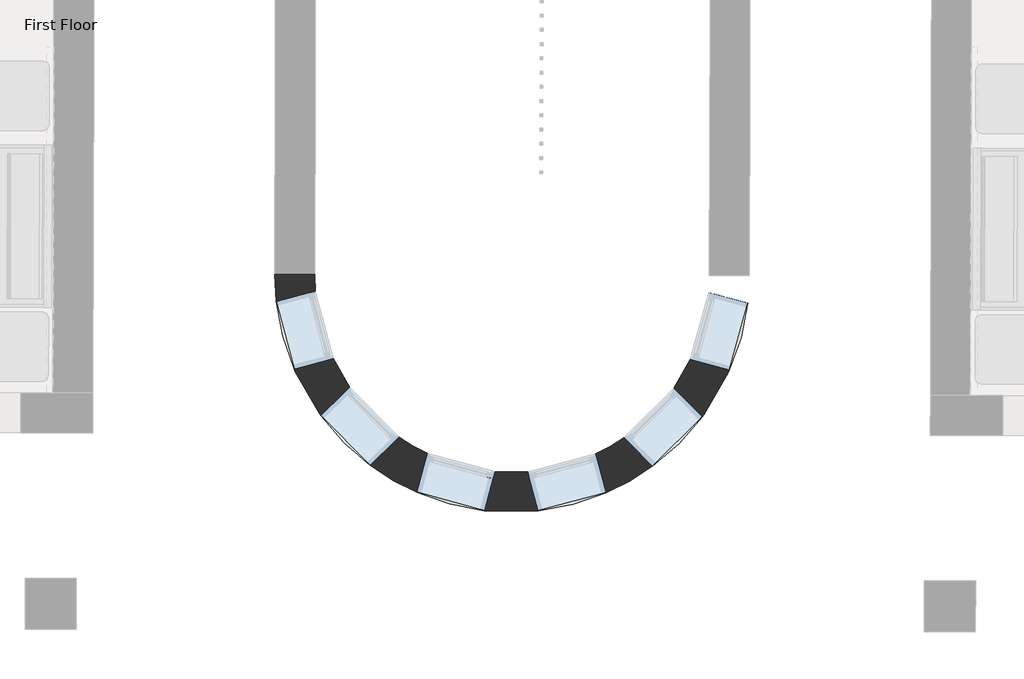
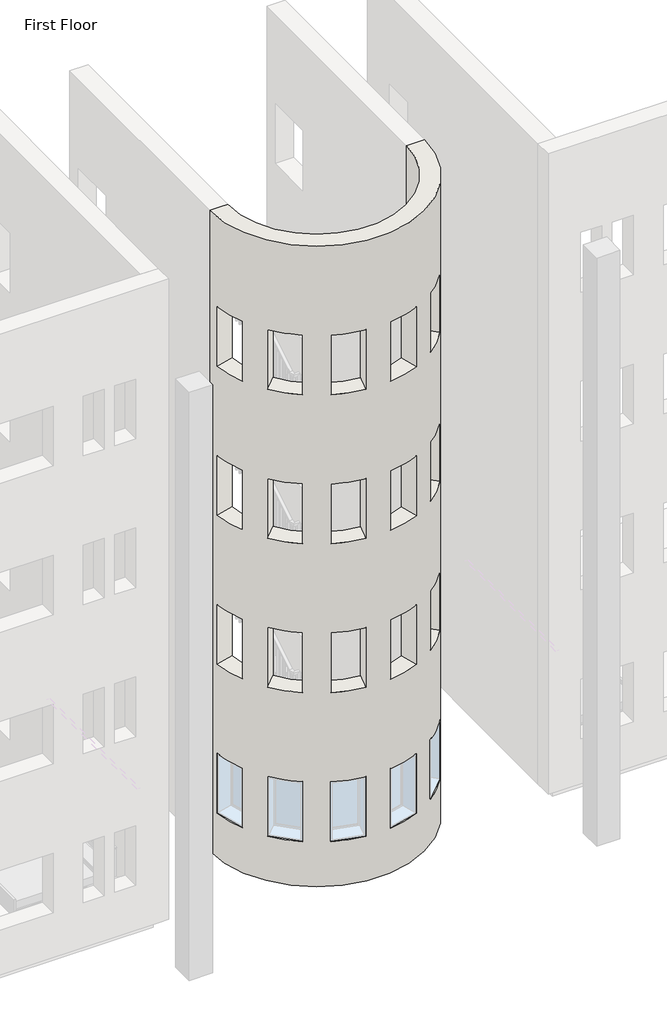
# One storey, part 2 of 22: 1 wall.
"""IFC4 building model written with IfcOpenShell, lengths in millimetres."""

from ifc_helpers import new_model, si_unit, frame, origin, place, context, project, spatial, polyline, circle_curve, element, save
from ifc_brep_helpers import plane_surface, cylinder_surface, revolved_surface, advanced_brep

model = new_model("IFC4")

# Units and contexts
model_context = context("Model", 3, world=origin())
ifc_project = project(units=[si_unit("LENGTHUNIT", "METRE", prefix="MILLI")], contexts=[model_context])

# Site, building, storey
site = spatial("IfcSite", under=ifc_project)
building = spatial("IfcBuilding", under=site)
storey = spatial("IfcBuildingStorey", under=building, Name="First Floor", Elevation=0.0)

# Wall
placement = place(None, origin())
element("IfcWall", 1, ObjectType="Exterior - Brick on Mtl. Stud", at=placement, inside=storey, context=model_context, shape_type="AdvancedBrep", body=[
    advanced_brep(
    [(-17288.0272981, -40737.1040895, 13107.0), (-20748.0128004, -40727.087895, 13107.0), (-21098.0113339, -40726.0746961, 13107.0), (-16938.0287647, -40738.1172884, 13107.0), (-20748.0128004, -40727.087895, 0.0), (-17288.0272981, -40737.1040895, 0.0), (-16938.0287647, -40738.1172884, 0.0), (-21098.0113339, -40726.0746961, 0.0), (-20586.0793709, -41462.9105815, 915.0), (-20586.0793709, -41462.9105815, 2135.0), (-20742.2526362, -40873.2412579, 2135.0), (-20742.2526362, -40873.2412579, 915.0), (-19169.1457103, -42455.482494, 915.0), (-19169.1457103, -42455.482494, 2135.0), (-19757.9009571, -42295.8978474, 2135.0), (-19757.9009571, -42295.8978474, 915.0), (-20010.5919618, -42149.0296528, 915.0), (-20010.5919618, -42149.0296528, 2135.0), (-20440.6766388, -41716.4476714, 2135.0), (-20440.6766388, -41716.4476714, 915.0), (-18033.6683701, -42154.7525818, 915.0), (-17601.0863887, -41724.6679048, 915.0), (-17601.0863887, -41724.6679048, 2135.0), (-18033.6683701, -42154.7525818, 2135.0), (-18876.8747836, -42456.3285792, 915.0), (-18287.20546, -42300.1553139, 915.0), (-18287.20546, -42300.1553139, 2135.0), (-18876.8747836, -42456.3285792, 2135.0), (-17454.2181941, -41471.9769001, 915.0), (-17294.6335475, -40883.2216533, 915.0), (-17294.6335475, -40883.2216533, 2135.0), (-17454.2181941, -41471.9769001, 2135.0), (-18033.6683701, -42154.7525818, 10059.0), (-17601.0863887, -41724.6679048, 10059.0), (-17601.0863887, -41724.6679048, 11279.0), (-18033.6683701, -42154.7525818, 11279.0), (-18876.8747836, -42456.3285792, 10059.0), (-18287.20546, -42300.1553139, 10059.0), (-18287.20546, -42300.1553139, 11279.0), (-18876.8747836, -42456.3285792, 11279.0), (-17454.2181941, -41471.9769001, 10059.0), (-17294.6335475, -40883.2216533, 10059.0), (-17294.6335475, -40883.2216533, 11279.0), (-17454.2181941, -41471.9769001, 11279.0), (-20010.5919618, -42149.0296528, 10059.0), (-20010.5919618, -42149.0296528, 11279.0), (-20440.6766388, -41716.4476714, 11279.0), (-20440.6766388, -41716.4476714, 10059.0), (-19169.1457103, -42455.482494, 10059.0), (-19169.1457103, -42455.482494, 11279.0), (-19757.9009571, -42295.8978474, 11279.0), (-19757.9009571, -42295.8978474, 10059.0), (-20586.0793709, -41462.9105815, 10059.0), (-20586.0793709, -41462.9105815, 11279.0), (-20742.2526362, -40873.2412579, 11279.0), (-20742.2526362, -40873.2412579, 10059.0), (-18033.6683701, -42154.7525818, 3963.0), (-17601.0863887, -41724.6679048, 3963.0), (-17601.0863887, -41724.6679048, 5183.0), (-18033.6683701, -42154.7525818, 5183.0), (-18876.8747836, -42456.3285792, 3963.0), (-18287.20546, -42300.1553139, 3963.0), (-18287.20546, -42300.1553139, 5183.0), (-18876.8747836, -42456.3285792, 5183.0), (-17454.2181941, -41471.9769001, 3963.0), (-17294.6335475, -40883.2216533, 3963.0), (-17294.6335475, -40883.2216533, 5183.0), (-17454.2181941, -41471.9769001, 5183.0), (-20010.5919618, -42149.0296528, 3963.0), (-20010.5919618, -42149.0296528, 5183.0), (-20440.6766388, -41716.4476714, 5183.0), (-20440.6766388, -41716.4476714, 3963.0), (-19169.1457103, -42455.482494, 3963.0), (-19169.1457103, -42455.482494, 5183.0), (-19757.9009571, -42295.8978474, 5183.0), (-19757.9009571, -42295.8978474, 3963.0), (-20586.0793709, -41462.9105815, 3963.0), (-20586.0793709, -41462.9105815, 5183.0), (-20742.2526362, -40873.2412579, 5183.0), (-20742.2526362, -40873.2412579, 3963.0), (-18033.6683701, -42154.7525818, 7011.0), (-17601.0863887, -41724.6679048, 7011.0), (-17601.0863887, -41724.6679048, 8231.0), (-18033.6683701, -42154.7525818, 8231.0), (-18876.8747836, -42456.3285792, 7011.0), (-18287.20546, -42300.1553139, 7011.0), (-18287.20546, -42300.1553139, 8231.0), (-18876.8747836, -42456.3285792, 8231.0), (-17454.2181941, -41471.9769001, 7011.0), (-17294.6335475, -40883.2216533, 7011.0), (-17294.6335475, -40883.2216533, 8231.0), (-17454.2181941, -41471.9769001, 8231.0), (-20010.5919618, -42149.0296528, 7011.0), (-20010.5919618, -42149.0296528, 8231.0), (-20440.6766388, -41716.4476714, 8231.0), (-20440.6766388, -41716.4476714, 7011.0), (-19169.1457103, -42455.482494, 7011.0), (-19169.1457103, -42455.482494, 8231.0), (-19757.9009571, -42295.8978474, 8231.0), (-19757.9009571, -42295.8978474, 7011.0), (-20586.0793709, -41462.9105815, 7011.0), (-20586.0793709, -41462.9105815, 8231.0), (-20742.2526362, -40873.2412579, 8231.0), (-20742.2526362, -40873.2412579, 7011.0), (-20928.8751952, -41553.6996748, 2135.0), (-20928.8751952, -41553.6996748, 915.0), (-21085.0484606, -40964.0303512, 915.0), (-21085.0484606, -40964.0303512, 2135.0), (-19261.9179613, -42797.7469329, 2135.0), (-19261.9179613, -42797.7469329, 915.0), (-19850.6732081, -42638.1622862, 915.0), (-19850.6732081, -42638.1622862, 2135.0), (-20262.0673073, -42399.0532261, 915.0), (-20692.1519843, -41966.4712447, 915.0), (-20692.1519843, -41966.4712447, 2135.0), (-20262.0673073, -42399.0532261, 2135.0), (-17783.6447968, -42406.2279273, 915.0), (-17783.6447968, -42406.2279273, 2135.0), (-17351.0628154, -41976.1432503, 2135.0), (-17351.0628154, -41976.1432503, 915.0), (-18786.0856903, -42799.1244036, 915.0), (-18786.0856903, -42799.1244036, 2135.0), (-18196.4163667, -42642.9511382, 2135.0), (-18196.4163667, -42642.9511382, 915.0), (-17111.9537553, -41564.749151, 915.0), (-17111.9537553, -41564.749151, 2135.0), (-16952.3691086, -40975.9939043, 2135.0), (-16952.3691086, -40975.9939043, 915.0), (-17783.6447968, -42406.2279273, 10059.0), (-17783.6447968, -42406.2279273, 11279.0), (-17351.0628154, -41976.1432503, 11279.0), (-17351.0628154, -41976.1432503, 10059.0), (-18786.0856903, -42799.1244036, 10059.0), (-18786.0856903, -42799.1244036, 11279.0), (-18196.4163667, -42642.9511382, 11279.0), (-18196.4163667, -42642.9511382, 10059.0), (-17111.9537553, -41564.749151, 10059.0), (-17111.9537553, -41564.749151, 11279.0), (-16952.3691086, -40975.9939043, 11279.0), (-16952.3691086, -40975.9939043, 10059.0), (-20262.0673073, -42399.0532261, 10059.0), (-20692.1519843, -41966.4712447, 10059.0), (-20692.1519843, -41966.4712447, 11279.0), (-20262.0673073, -42399.0532261, 11279.0), (-19261.9179613, -42797.7469329, 10059.0), (-19850.6732081, -42638.1622862, 10059.0), (-19850.6732081, -42638.1622862, 11279.0), (-19261.9179613, -42797.7469329, 11279.0), (-20928.8751952, -41553.6996748, 10059.0), (-21085.0484606, -40964.0303512, 10059.0), (-21085.0484606, -40964.0303512, 11279.0), (-20928.8751952, -41553.6996748, 11279.0), (-17783.6447968, -42406.2279273, 3963.0), (-17783.6447968, -42406.2279273, 5183.0), (-17351.0628154, -41976.1432503, 5183.0), (-17351.0628154, -41976.1432503, 3963.0), (-18786.0856903, -42799.1244036, 3963.0), (-18786.0856903, -42799.1244036, 5183.0), (-18196.4163667, -42642.9511382, 5183.0), (-18196.4163667, -42642.9511382, 3963.0), (-17111.9537553, -41564.749151, 3963.0), (-17111.9537553, -41564.749151, 5183.0), (-16952.3691086, -40975.9939043, 5183.0), (-16952.3691086, -40975.9939043, 3963.0), (-20262.0673073, -42399.0532261, 3963.0), (-20692.1519843, -41966.4712447, 3963.0), (-20692.1519843, -41966.4712447, 5183.0), (-20262.0673073, -42399.0532261, 5183.0), (-19261.9179613, -42797.7469329, 3963.0), (-19850.6732081, -42638.1622862, 3963.0), (-19850.6732081, -42638.1622862, 5183.0), (-19261.9179613, -42797.7469329, 5183.0), (-20928.8751952, -41553.6996748, 3963.0), (-21085.0484606, -40964.0303512, 3963.0), (-21085.0484606, -40964.0303512, 5183.0), (-20928.8751952, -41553.6996748, 5183.0), (-17783.6447968, -42406.2279273, 7011.0), (-17783.6447968, -42406.2279273, 8231.0), (-17351.0628154, -41976.1432503, 8231.0), (-17351.0628154, -41976.1432503, 7011.0), (-18786.0856903, -42799.1244036, 7011.0), (-18786.0856903, -42799.1244036, 8231.0), (-18196.4163667, -42642.9511382, 8231.0), (-18196.4163667, -42642.9511382, 7011.0), (-17111.9537553, -41564.749151, 7011.0), (-17111.9537553, -41564.749151, 8231.0), (-16952.3691086, -40975.9939043, 8231.0), (-16952.3691086, -40975.9939043, 7011.0), (-20262.0673073, -42399.0532261, 7011.0), (-20692.1519843, -41966.4712447, 7011.0), (-20692.1519843, -41966.4712447, 8231.0), (-20262.0673073, -42399.0532261, 8231.0), (-19261.9179613, -42797.7469329, 7011.0), (-19850.6732081, -42638.1622862, 7011.0), (-19850.6732081, -42638.1622862, 8231.0), (-19261.9179613, -42797.7469329, 8231.0), (-20928.8751952, -41553.6996748, 7011.0), (-21085.0484606, -40964.0303512, 7011.0), (-21085.0484606, -40964.0303512, 8231.0), (-20928.8751952, -41553.6996748, 8231.0)],
    [
        (0, 1, circle_curve(frame((-19018.0200493, -40732.0959922, 13107.0), z_axis=(0.0, 0.0, -1.0), x_axis=(0.9999958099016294, -0.0028948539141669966, 0.0)), 1730.0)),
        (1, 2),
        (2, 3, circle_curve(frame((-19018.0200493, -40732.0959922, 13107.0), z_axis=(0.0, 0.0, 1.0), x_axis=(0.9999958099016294, -0.0028948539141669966, 0.0)), 2080.0)),
        (3, 0),
        (4, 5, circle_curve(frame((-19018.0200493, -40732.0959922, 0.0), z_axis=(0.0, 0.0, 1.0), x_axis=(0.9999958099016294, -0.0028948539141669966, 0.0)), 1730.0)),
        (5, 6),
        (6, 7, circle_curve(frame((-19018.0200493, -40732.0959922, 0.0), z_axis=(0.0, 0.0, -1.0), x_axis=(0.9999958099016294, -0.0028948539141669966, 0.0)), 2080.0)),
        (7, 4),
        (0, 5),
        (4, 1),
        (8, 9),
        (9, 10, circle_curve(frame((-19018.0200493, -40732.0959922, 2135.0), z_axis=(0.0, 0.0, -1.0), x_axis=(0.9999958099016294, -0.0028948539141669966, 0.0)), 1730.0)),
        (10, 11),
        (11, 8, circle_curve(frame((-19018.0200493, -40732.0959922, 915.0), z_axis=(0.0, 0.0, 1.0), x_axis=(0.9999958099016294, -0.0028948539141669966, 0.0)), 1730.0)),
        (12, 13),
        (13, 14, circle_curve(frame((-19018.0200493, -40732.0959922, 2135.0), z_axis=(0.0, 0.0, -1.0), x_axis=(0.9999958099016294, -0.0028948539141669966, 0.0)), 1730.0)),
        (14, 15),
        (15, 12, circle_curve(frame((-19018.0200493, -40732.0959922, 915.0), z_axis=(0.0, 0.0, 1.0), x_axis=(0.9999958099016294, -0.0028948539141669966, 0.0)), 1730.0)),
        (16, 17),
        (17, 18, circle_curve(frame((-19018.0200493, -40732.0959922, 2135.0), z_axis=(0.0, 0.0, -1.0), x_axis=(0.9999958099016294, -0.0028948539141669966, 0.0)), 1730.0)),
        (18, 19),
        (19, 16, circle_curve(frame((-19018.0200493, -40732.0959922, 915.0), z_axis=(0.0, 0.0, 1.0), x_axis=(0.9999958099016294, -0.0028948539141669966, 0.0)), 1730.0)),
        (20, 21, circle_curve(frame((-19018.0200493, -40732.0959922, 915.0), z_axis=(0.0, 0.0, 1.0), x_axis=(0.9999958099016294, -0.0028948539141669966, 0.0)), 1730.0)),
        (21, 22),
        (22, 23, circle_curve(frame((-19018.0200493, -40732.0959922, 2135.0), z_axis=(0.0, 0.0, -1.0), x_axis=(0.9999958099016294, -0.0028948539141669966, 0.0)), 1730.0)),
        (23, 20),
        (24, 25, circle_curve(frame((-19018.0200493, -40732.0959922, 915.0), z_axis=(0.0, 0.0, 1.0), x_axis=(0.9999958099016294, -0.0028948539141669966, 0.0)), 1730.0)),
        (25, 26),
        (26, 27, circle_curve(frame((-19018.0200493, -40732.0959922, 2135.0), z_axis=(0.0, 0.0, -1.0), x_axis=(0.9999958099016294, -0.0028948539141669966, 0.0)), 1730.0)),
        (27, 24),
        (28, 29, circle_curve(frame((-19018.0200493, -40732.0959922, 915.0), z_axis=(0.0, 0.0, 1.0), x_axis=(0.9999958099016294, -0.0028948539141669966, 0.0)), 1730.0)),
        (29, 30),
        (30, 31, circle_curve(frame((-19018.0200493, -40732.0959922, 2135.0), z_axis=(0.0, 0.0, -1.0), x_axis=(0.9999958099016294, -0.0028948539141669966, 0.0)), 1730.0)),
        (31, 28),
        (32, 33, circle_curve(frame((-19018.0200493, -40732.0959922, 10059.0), z_axis=(0.0, 0.0, 1.0), x_axis=(0.9999958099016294, -0.0028948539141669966, 0.0)), 1730.0)),
        (33, 34),
        (34, 35, circle_curve(frame((-19018.0200493, -40732.0959922, 11279.0), z_axis=(0.0, 0.0, -1.0), x_axis=(0.9999958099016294, -0.0028948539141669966, 0.0)), 1730.0)),
        (35, 32),
        (36, 37, circle_curve(frame((-19018.0200493, -40732.0959922, 10059.0), z_axis=(0.0, 0.0, 1.0), x_axis=(0.9999958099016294, -0.0028948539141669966, 0.0)), 1730.0)),
        (37, 38),
        (38, 39, circle_curve(frame((-19018.0200493, -40732.0959922, 11279.0), z_axis=(0.0, 0.0, -1.0), x_axis=(0.9999958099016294, -0.0028948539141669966, 0.0)), 1730.0)),
        (39, 36),
        (40, 41, circle_curve(frame((-19018.0200493, -40732.0959922, 10059.0), z_axis=(0.0, 0.0, 1.0), x_axis=(0.9999958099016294, -0.0028948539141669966, 0.0)), 1730.0)),
        (41, 42),
        (42, 43, circle_curve(frame((-19018.0200493, -40732.0959922, 11279.0), z_axis=(0.0, 0.0, -1.0), x_axis=(0.9999958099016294, -0.0028948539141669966, 0.0)), 1730.0)),
        (43, 40),
        (44, 45),
        (45, 46, circle_curve(frame((-19018.0200493, -40732.0959922, 11279.0), z_axis=(0.0, 0.0, -1.0), x_axis=(0.9999958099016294, -0.0028948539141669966, 0.0)), 1730.0)),
        (46, 47),
        (47, 44, circle_curve(frame((-19018.0200493, -40732.0959922, 10059.0), z_axis=(0.0, 0.0, 1.0), x_axis=(0.9999958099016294, -0.0028948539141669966, 0.0)), 1730.0)),
        (48, 49),
        (49, 50, circle_curve(frame((-19018.0200493, -40732.0959922, 11279.0), z_axis=(0.0, 0.0, -1.0), x_axis=(0.9999958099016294, -0.0028948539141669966, 0.0)), 1730.0)),
        (50, 51),
        (51, 48, circle_curve(frame((-19018.0200493, -40732.0959922, 10059.0), z_axis=(0.0, 0.0, 1.0), x_axis=(0.9999958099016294, -0.0028948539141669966, 0.0)), 1730.0)),
        (52, 53),
        (53, 54, circle_curve(frame((-19018.0200493, -40732.0959922, 11279.0), z_axis=(0.0, 0.0, -1.0), x_axis=(0.9999958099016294, -0.0028948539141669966, 0.0)), 1730.0)),
        (54, 55),
        (55, 52, circle_curve(frame((-19018.0200493, -40732.0959922, 10059.0), z_axis=(0.0, 0.0, 1.0), x_axis=(0.9999958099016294, -0.0028948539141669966, 0.0)), 1730.0)),
        (56, 57, circle_curve(frame((-19018.0200493, -40732.0959922, 3963.0), z_axis=(0.0, 0.0, 1.0), x_axis=(0.9999958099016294, -0.0028948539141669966, 0.0)), 1730.0)),
        (57, 58),
        (58, 59, circle_curve(frame((-19018.0200493, -40732.0959922, 5183.0), z_axis=(0.0, 0.0, -1.0), x_axis=(0.9999958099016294, -0.0028948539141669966, 0.0)), 1730.0)),
        (59, 56),
        (60, 61, circle_curve(frame((-19018.0200493, -40732.0959922, 3963.0), z_axis=(0.0, 0.0, 1.0), x_axis=(0.9999958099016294, -0.0028948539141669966, 0.0)), 1730.0)),
        (61, 62),
        (62, 63, circle_curve(frame((-19018.0200493, -40732.0959922, 5183.0), z_axis=(0.0, 0.0, -1.0), x_axis=(0.9999958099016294, -0.0028948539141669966, 0.0)), 1730.0)),
        (63, 60),
        (64, 65, circle_curve(frame((-19018.0200493, -40732.0959922, 3963.0), z_axis=(0.0, 0.0, 1.0), x_axis=(0.9999958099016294, -0.0028948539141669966, 0.0)), 1730.0)),
        (65, 66),
        (66, 67, circle_curve(frame((-19018.0200493, -40732.0959922, 5183.0), z_axis=(0.0, 0.0, -1.0), x_axis=(0.9999958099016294, -0.0028948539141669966, 0.0)), 1730.0)),
        (67, 64),
        (68, 69),
        (69, 70, circle_curve(frame((-19018.0200493, -40732.0959922, 5183.0), z_axis=(0.0, 0.0, -1.0), x_axis=(0.9999958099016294, -0.0028948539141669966, 0.0)), 1730.0)),
        (70, 71),
        (71, 68, circle_curve(frame((-19018.0200493, -40732.0959922, 3963.0), z_axis=(0.0, 0.0, 1.0), x_axis=(0.9999958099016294, -0.0028948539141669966, 0.0)), 1730.0)),
        (72, 73),
        (73, 74, circle_curve(frame((-19018.0200493, -40732.0959922, 5183.0), z_axis=(0.0, 0.0, -1.0), x_axis=(0.9999958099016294, -0.0028948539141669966, 0.0)), 1730.0)),
        (74, 75),
        (75, 72, circle_curve(frame((-19018.0200493, -40732.0959922, 3963.0), z_axis=(0.0, 0.0, 1.0), x_axis=(0.9999958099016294, -0.0028948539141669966, 0.0)), 1730.0)),
        (76, 77),
        (77, 78, circle_curve(frame((-19018.0200493, -40732.0959922, 5183.0), z_axis=(0.0, 0.0, -1.0), x_axis=(0.9999958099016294, -0.0028948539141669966, 0.0)), 1730.0)),
        (78, 79),
        (79, 76, circle_curve(frame((-19018.0200493, -40732.0959922, 3963.0), z_axis=(0.0, 0.0, 1.0), x_axis=(0.9999958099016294, -0.0028948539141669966, 0.0)), 1730.0)),
        (80, 81, circle_curve(frame((-19018.0200493, -40732.0959922, 7011.0), z_axis=(0.0, 0.0, 1.0), x_axis=(0.9999958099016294, -0.0028948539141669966, 0.0)), 1730.0)),
        (81, 82),
        (82, 83, circle_curve(frame((-19018.0200493, -40732.0959922, 8231.0), z_axis=(0.0, 0.0, -1.0), x_axis=(0.9999958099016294, -0.0028948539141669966, 0.0)), 1730.0)),
        (83, 80),
        (84, 85, circle_curve(frame((-19018.0200493, -40732.0959922, 7011.0), z_axis=(0.0, 0.0, 1.0), x_axis=(0.9999958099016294, -0.0028948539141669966, 0.0)), 1730.0)),
        (85, 86),
        (86, 87, circle_curve(frame((-19018.0200493, -40732.0959922, 8231.0), z_axis=(0.0, 0.0, -1.0), x_axis=(0.9999958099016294, -0.0028948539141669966, 0.0)), 1730.0)),
        (87, 84),
        (88, 89, circle_curve(frame((-19018.0200493, -40732.0959922, 7011.0), z_axis=(0.0, 0.0, 1.0), x_axis=(0.9999958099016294, -0.0028948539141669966, 0.0)), 1730.0)),
        (89, 90),
        (90, 91, circle_curve(frame((-19018.0200493, -40732.0959922, 8231.0), z_axis=(0.0, 0.0, -1.0), x_axis=(0.9999958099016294, -0.0028948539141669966, 0.0)), 1730.0)),
        (91, 88),
        (92, 93),
        (93, 94, circle_curve(frame((-19018.0200493, -40732.0959922, 8231.0), z_axis=(0.0, 0.0, -1.0), x_axis=(0.9999958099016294, -0.0028948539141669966, 0.0)), 1730.0)),
        (94, 95),
        (95, 92, circle_curve(frame((-19018.0200493, -40732.0959922, 7011.0), z_axis=(0.0, 0.0, 1.0), x_axis=(0.9999958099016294, -0.0028948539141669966, 0.0)), 1730.0)),
        (96, 97),
        (97, 98, circle_curve(frame((-19018.0200493, -40732.0959922, 8231.0), z_axis=(0.0, 0.0, -1.0), x_axis=(0.9999958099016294, -0.0028948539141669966, 0.0)), 1730.0)),
        (98, 99),
        (99, 96, circle_curve(frame((-19018.0200493, -40732.0959922, 7011.0), z_axis=(0.0, 0.0, 1.0), x_axis=(0.9999958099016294, -0.0028948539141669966, 0.0)), 1730.0)),
        (100, 101),
        (101, 102, circle_curve(frame((-19018.0200493, -40732.0959922, 8231.0), z_axis=(0.0, 0.0, -1.0), x_axis=(0.9999958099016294, -0.0028948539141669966, 0.0)), 1730.0)),
        (102, 103),
        (103, 100, circle_curve(frame((-19018.0200493, -40732.0959922, 7011.0), z_axis=(0.0, 0.0, 1.0), x_axis=(0.9999958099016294, -0.0028948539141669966, 0.0)), 1730.0)),
        (7, 2),
        (6, 3),
        (104, 105),
        (105, 106, circle_curve(frame((-19018.0200493, -40732.0959922, 915.0), z_axis=(0.0, 0.0, -1.0), x_axis=(0.9999958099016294, -0.0028948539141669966, 0.0)), 2080.0)),
        (106, 107),
        (107, 104, circle_curve(frame((-19018.0200493, -40732.0959922, 2135.0), z_axis=(0.0, 0.0, 1.0), x_axis=(0.9999958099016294, -0.0028948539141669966, 0.0)), 2080.0)),
        (108, 109),
        (109, 110, circle_curve(frame((-19018.0200493, -40732.0959922, 915.0), z_axis=(0.0, 0.0, -1.0), x_axis=(0.9999958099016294, -0.0028948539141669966, 0.0)), 2080.0)),
        (110, 111),
        (111, 108, circle_curve(frame((-19018.0200493, -40732.0959922, 2135.0), z_axis=(0.0, 0.0, 1.0), x_axis=(0.9999958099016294, -0.0028948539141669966, 0.0)), 2080.0)),
        (112, 113, circle_curve(frame((-19018.0200493, -40732.0959922, 915.0), z_axis=(0.0, 0.0, -1.0), x_axis=(0.9999958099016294, -0.0028948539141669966, 0.0)), 2080.0)),
        (113, 114),
        (114, 115, circle_curve(frame((-19018.0200493, -40732.0959922, 2135.0), z_axis=(0.0, 0.0, 1.0), x_axis=(0.9999958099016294, -0.0028948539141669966, 0.0)), 2080.0)),
        (115, 112),
        (116, 117),
        (117, 118, circle_curve(frame((-19018.0200493, -40732.0959922, 2135.0), z_axis=(0.0, 0.0, 1.0), x_axis=(0.9999958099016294, -0.0028948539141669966, 0.0)), 2080.0)),
        (118, 119),
        (119, 116, circle_curve(frame((-19018.0200493, -40732.0959922, 915.0), z_axis=(0.0, 0.0, -1.0), x_axis=(0.9999958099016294, -0.0028948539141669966, 0.0)), 2080.0)),
        (120, 121),
        (121, 122, circle_curve(frame((-19018.0200493, -40732.0959922, 2135.0), z_axis=(0.0, 0.0, 1.0), x_axis=(0.9999958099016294, -0.0028948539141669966, 0.0)), 2080.0)),
        (122, 123),
        (123, 120, circle_curve(frame((-19018.0200493, -40732.0959922, 915.0), z_axis=(0.0, 0.0, -1.0), x_axis=(0.9999958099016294, -0.0028948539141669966, 0.0)), 2080.0)),
        (124, 125),
        (125, 126, circle_curve(frame((-19018.0200493, -40732.0959922, 2135.0), z_axis=(0.0, 0.0, 1.0), x_axis=(0.9999958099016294, -0.0028948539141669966, 0.0)), 2080.0)),
        (126, 127),
        (127, 124, circle_curve(frame((-19018.0200493, -40732.0959922, 915.0), z_axis=(0.0, 0.0, -1.0), x_axis=(0.9999958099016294, -0.0028948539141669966, 0.0)), 2080.0)),
        (128, 129),
        (129, 130, circle_curve(frame((-19018.0200493, -40732.0959922, 11279.0), z_axis=(0.0, 0.0, 1.0), x_axis=(0.9999958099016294, -0.0028948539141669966, 0.0)), 2080.0)),
        (130, 131),
        (131, 128, circle_curve(frame((-19018.0200493, -40732.0959922, 10059.0), z_axis=(0.0, 0.0, -1.0), x_axis=(0.9999958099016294, -0.0028948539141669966, 0.0)), 2080.0)),
        (132, 133),
        (133, 134, circle_curve(frame((-19018.0200493, -40732.0959922, 11279.0), z_axis=(0.0, 0.0, 1.0), x_axis=(0.9999958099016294, -0.0028948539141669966, 0.0)), 2080.0)),
        (134, 135),
        (135, 132, circle_curve(frame((-19018.0200493, -40732.0959922, 10059.0), z_axis=(0.0, 0.0, -1.0), x_axis=(0.9999958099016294, -0.0028948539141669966, 0.0)), 2080.0)),
        (136, 137),
        (137, 138, circle_curve(frame((-19018.0200493, -40732.0959922, 11279.0), z_axis=(0.0, 0.0, 1.0), x_axis=(0.9999958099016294, -0.0028948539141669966, 0.0)), 2080.0)),
        (138, 139),
        (139, 136, circle_curve(frame((-19018.0200493, -40732.0959922, 10059.0), z_axis=(0.0, 0.0, -1.0), x_axis=(0.9999958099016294, -0.0028948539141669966, 0.0)), 2080.0)),
        (140, 141, circle_curve(frame((-19018.0200493, -40732.0959922, 10059.0), z_axis=(0.0, 0.0, -1.0), x_axis=(0.9999958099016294, -0.0028948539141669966, 0.0)), 2080.0)),
        (141, 142),
        (142, 143, circle_curve(frame((-19018.0200493, -40732.0959922, 11279.0), z_axis=(0.0, 0.0, 1.0), x_axis=(0.9999958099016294, -0.0028948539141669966, 0.0)), 2080.0)),
        (143, 140),
        (144, 145, circle_curve(frame((-19018.0200493, -40732.0959922, 10059.0), z_axis=(0.0, 0.0, -1.0), x_axis=(0.9999958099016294, -0.0028948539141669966, 0.0)), 2080.0)),
        (145, 146),
        (146, 147, circle_curve(frame((-19018.0200493, -40732.0959922, 11279.0), z_axis=(0.0, 0.0, 1.0), x_axis=(0.9999958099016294, -0.0028948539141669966, 0.0)), 2080.0)),
        (147, 144),
        (148, 149, circle_curve(frame((-19018.0200493, -40732.0959922, 10059.0), z_axis=(0.0, 0.0, -1.0), x_axis=(0.9999958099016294, -0.0028948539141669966, 0.0)), 2080.0)),
        (149, 150),
        (150, 151, circle_curve(frame((-19018.0200493, -40732.0959922, 11279.0), z_axis=(0.0, 0.0, 1.0), x_axis=(0.9999958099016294, -0.0028948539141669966, 0.0)), 2080.0)),
        (151, 148),
        (152, 153),
        (153, 154, circle_curve(frame((-19018.0200493, -40732.0959922, 5183.0), z_axis=(0.0, 0.0, 1.0), x_axis=(0.9999958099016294, -0.0028948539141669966, 0.0)), 2080.0)),
        (154, 155),
        (155, 152, circle_curve(frame((-19018.0200493, -40732.0959922, 3963.0), z_axis=(0.0, 0.0, -1.0), x_axis=(0.9999958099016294, -0.0028948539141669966, 0.0)), 2080.0)),
        (156, 157),
        (157, 158, circle_curve(frame((-19018.0200493, -40732.0959922, 5183.0), z_axis=(0.0, 0.0, 1.0), x_axis=(0.9999958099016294, -0.0028948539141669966, 0.0)), 2080.0)),
        (158, 159),
        (159, 156, circle_curve(frame((-19018.0200493, -40732.0959922, 3963.0), z_axis=(0.0, 0.0, -1.0), x_axis=(0.9999958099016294, -0.0028948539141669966, 0.0)), 2080.0)),
        (160, 161),
        (161, 162, circle_curve(frame((-19018.0200493, -40732.0959922, 5183.0), z_axis=(0.0, 0.0, 1.0), x_axis=(0.9999958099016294, -0.0028948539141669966, 0.0)), 2080.0)),
        (162, 163),
        (163, 160, circle_curve(frame((-19018.0200493, -40732.0959922, 3963.0), z_axis=(0.0, 0.0, -1.0), x_axis=(0.9999958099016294, -0.0028948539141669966, 0.0)), 2080.0)),
        (164, 165, circle_curve(frame((-19018.0200493, -40732.0959922, 3963.0), z_axis=(0.0, 0.0, -1.0), x_axis=(0.9999958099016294, -0.0028948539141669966, 0.0)), 2080.0)),
        (165, 166),
        (166, 167, circle_curve(frame((-19018.0200493, -40732.0959922, 5183.0), z_axis=(0.0, 0.0, 1.0), x_axis=(0.9999958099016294, -0.0028948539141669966, 0.0)), 2080.0)),
        (167, 164),
        (168, 169, circle_curve(frame((-19018.0200493, -40732.0959922, 3963.0), z_axis=(0.0, 0.0, -1.0), x_axis=(0.9999958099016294, -0.0028948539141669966, 0.0)), 2080.0)),
        (169, 170),
        (170, 171, circle_curve(frame((-19018.0200493, -40732.0959922, 5183.0), z_axis=(0.0, 0.0, 1.0), x_axis=(0.9999958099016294, -0.0028948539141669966, 0.0)), 2080.0)),
        (171, 168),
        (172, 173, circle_curve(frame((-19018.0200493, -40732.0959922, 3963.0), z_axis=(0.0, 0.0, -1.0), x_axis=(0.9999958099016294, -0.0028948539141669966, 0.0)), 2080.0)),
        (173, 174),
        (174, 175, circle_curve(frame((-19018.0200493, -40732.0959922, 5183.0), z_axis=(0.0, 0.0, 1.0), x_axis=(0.9999958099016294, -0.0028948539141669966, 0.0)), 2080.0)),
        (175, 172),
        (176, 177),
        (177, 178, circle_curve(frame((-19018.0200493, -40732.0959922, 8231.0), z_axis=(0.0, 0.0, 1.0), x_axis=(0.9999958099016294, -0.0028948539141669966, 0.0)), 2080.0)),
        (178, 179),
        (179, 176, circle_curve(frame((-19018.0200493, -40732.0959922, 7011.0), z_axis=(0.0, 0.0, -1.0), x_axis=(0.9999958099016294, -0.0028948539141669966, 0.0)), 2080.0)),
        (180, 181),
        (181, 182, circle_curve(frame((-19018.0200493, -40732.0959922, 8231.0), z_axis=(0.0, 0.0, 1.0), x_axis=(0.9999958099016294, -0.0028948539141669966, 0.0)), 2080.0)),
        (182, 183),
        (183, 180, circle_curve(frame((-19018.0200493, -40732.0959922, 7011.0), z_axis=(0.0, 0.0, -1.0), x_axis=(0.9999958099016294, -0.0028948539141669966, 0.0)), 2080.0)),
        (184, 185),
        (185, 186, circle_curve(frame((-19018.0200493, -40732.0959922, 8231.0), z_axis=(0.0, 0.0, 1.0), x_axis=(0.9999958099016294, -0.0028948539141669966, 0.0)), 2080.0)),
        (186, 187),
        (187, 184, circle_curve(frame((-19018.0200493, -40732.0959922, 7011.0), z_axis=(0.0, 0.0, -1.0), x_axis=(0.9999958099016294, -0.0028948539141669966, 0.0)), 2080.0)),
        (188, 189, circle_curve(frame((-19018.0200493, -40732.0959922, 7011.0), z_axis=(0.0, 0.0, -1.0), x_axis=(0.9999958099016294, -0.0028948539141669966, 0.0)), 2080.0)),
        (189, 190),
        (190, 191, circle_curve(frame((-19018.0200493, -40732.0959922, 8231.0), z_axis=(0.0, 0.0, 1.0), x_axis=(0.9999958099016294, -0.0028948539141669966, 0.0)), 2080.0)),
        (191, 188),
        (192, 193, circle_curve(frame((-19018.0200493, -40732.0959922, 7011.0), z_axis=(0.0, 0.0, -1.0), x_axis=(0.9999958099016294, -0.0028948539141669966, 0.0)), 2080.0)),
        (193, 194),
        (194, 195, circle_curve(frame((-19018.0200493, -40732.0959922, 8231.0), z_axis=(0.0, 0.0, 1.0), x_axis=(0.9999958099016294, -0.0028948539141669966, 0.0)), 2080.0)),
        (195, 192),
        (196, 197, circle_curve(frame((-19018.0200493, -40732.0959922, 7011.0), z_axis=(0.0, 0.0, -1.0), x_axis=(0.9999958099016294, -0.0028948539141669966, 0.0)), 2080.0)),
        (197, 198),
        (198, 199, circle_curve(frame((-19018.0200493, -40732.0959922, 8231.0), z_axis=(0.0, 0.0, 1.0), x_axis=(0.9999958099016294, -0.0028948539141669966, 0.0)), 2080.0)),
        (199, 196),
        (8, 105),
        (104, 9),
        (107, 10),
        (106, 11),
        (12, 109),
        (108, 13),
        (111, 14),
        (110, 15),
        (16, 112),
        (115, 17),
        (114, 18),
        (113, 19),
        (116, 20),
        (23, 117),
        (22, 118),
        (21, 119),
        (120, 24),
        (27, 121),
        (26, 122),
        (25, 123),
        (124, 28),
        (31, 125),
        (30, 126),
        (29, 127),
        (128, 32),
        (35, 129),
        (34, 130),
        (33, 131),
        (132, 36),
        (39, 133),
        (38, 134),
        (37, 135),
        (136, 40),
        (43, 137),
        (42, 138),
        (41, 139),
        (44, 140),
        (143, 45),
        (142, 46),
        (141, 47),
        (48, 144),
        (147, 49),
        (146, 50),
        (145, 51),
        (52, 148),
        (151, 53),
        (150, 54),
        (149, 55),
        (152, 56),
        (59, 153),
        (58, 154),
        (57, 155),
        (156, 60),
        (63, 157),
        (62, 158),
        (61, 159),
        (160, 64),
        (67, 161),
        (66, 162),
        (65, 163),
        (68, 164),
        (167, 69),
        (166, 70),
        (165, 71),
        (72, 168),
        (171, 73),
        (170, 74),
        (169, 75),
        (76, 172),
        (175, 77),
        (174, 78),
        (173, 79),
        (176, 80),
        (83, 177),
        (82, 178),
        (81, 179),
        (180, 84),
        (87, 181),
        (86, 182),
        (85, 183),
        (184, 88),
        (91, 185),
        (90, 186),
        (89, 187),
        (92, 188),
        (191, 93),
        (190, 94),
        (189, 95),
        (96, 192),
        (195, 97),
        (194, 98),
        (193, 99),
        (100, 196),
        (199, 101),
        (198, 102),
        (197, 103),
    ],
    [
        plane_surface(frame((-17288.0272981, -40737.1040895, 13107.0), z_axis=(0.0, 0.0, 1.0000000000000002), x_axis=(-0.0028948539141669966, -0.9999958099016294, 0.0))),
        plane_surface(frame((-17288.0272981, -40737.1040895, 0.0), z_axis=(0.0, 0.0, -1.0000000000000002), x_axis=(0.0028948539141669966, 0.9999958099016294, 0.0))),
        revolved_surface(polyline([(-17288.027298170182, -40737.104089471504, 0.0), (-17288.027298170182, -40737.104089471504, 13107.0)]), (-19018.0200493, -40732.0959922, 0.0), (0.0, 0.0, -1.0)),
        plane_surface(frame((-20748.0128004, -40727.087895, 13107.0), z_axis=(0.0028948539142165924, 0.9999958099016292, 0.0), x_axis=(0.0, 0.0, -1.0))),
        cylinder_surface(frame((-19018.0200493, -40732.0959922, 0.0), z_axis=(0.0, 0.0, 1.0), x_axis=(0.9999958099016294, -0.0028948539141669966, 0.0)), 2080.0),
        plane_surface(frame((-16938.0287647, -40738.1172884, 13107.0), z_axis=(0.0028948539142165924, 0.9999958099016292, 0.0), x_axis=(0.0, 0.0, -1.0))),
        plane_surface(frame((-20586.0793709, -41462.9105815, 915.0), z_axis=(-0.25602174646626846, 0.9666710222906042, 0.0), x_axis=(-0.9666710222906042, -0.25602174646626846, 0.0))),
        plane_surface(frame((-20586.0793709, -41462.9105815, 2135.0), z_axis=(0.0, 0.0, -1.0), x_axis=(-0.9666710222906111, -0.2560217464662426, 0.0))),
        plane_surface(frame((-20742.2526362, -40873.2412579, 2135.0), z_axis=(0.25602174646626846, -0.9666710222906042, 0.0), x_axis=(-0.9666710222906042, -0.25602174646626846, 0.0))),
        plane_surface(frame((-20742.2526362, -40873.2412579, 915.0), z_axis=(0.0, 0.0, 1.0000000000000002), x_axis=(-0.9666710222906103, -0.25602174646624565, 0.0))),
        plane_surface(frame((-19659.4106739, -44264.2158258, 915.0), z_axis=(-0.9651725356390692, 0.26161417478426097, 0.0), x_axis=(0.26161417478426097, 0.9651725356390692, 0.0))),
        plane_surface(frame((-19659.4106739, -44264.2158258, 2135.0), z_axis=(0.0, 0.0, -1.0000000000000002), x_axis=(0.26161417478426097, 0.9651725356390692, 0.0))),
        plane_surface(frame((-20248.1659206, -44104.6311792, 2135.0), z_axis=(0.9651725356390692, -0.26161417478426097, 0.0), x_axis=(0.26161417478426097, 0.9651725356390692, 0.0))),
        plane_surface(frame((-20248.1659206, -44104.6311792, 915.0), z_axis=(0.0, 0.0, 1.0000000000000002), x_axis=(0.26161417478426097, 0.9651725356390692, 0.0))),
        plane_surface(frame((-20010.5919618, -42149.0296528, 915.0), z_axis=(-0.7050568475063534, 0.7091507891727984, 0.0), x_axis=(-0.7091507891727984, -0.7050568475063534, 0.0))),
        plane_surface(frame((-20010.5919618, -42149.0296528, 2135.0), z_axis=(0.0, 0.0, -1.0), x_axis=(-0.709150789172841, -0.7050568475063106, 0.0))),
        plane_surface(frame((-20440.6766388, -41716.4476714, 2135.0), z_axis=(0.7050568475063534, -0.7091507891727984, 0.0), x_axis=(-0.7091507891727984, -0.7050568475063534, 0.0))),
        plane_surface(frame((-20440.6766388, -41716.4476714, 915.0), z_axis=(0.0, 0.0, 1.0000000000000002), x_axis=(-0.709150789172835, -0.7050568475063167, 0.0))),
        plane_surface(frame((-17783.6447968, -42406.2279273, 915.0), z_axis=(0.7091507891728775, 0.7050568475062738, 0.0), x_axis=(-0.7050568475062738, 0.7091507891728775, 0.0))),
        plane_surface(frame((-17783.6447968, -42406.2279273, 2135.0), z_axis=(0.0, 0.0, -1.0), x_axis=(-0.7050568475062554, 0.7091507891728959, 0.0))),
        plane_surface(frame((-17351.0628154, -41976.1432503, 2135.0), z_axis=(-0.7091507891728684, -0.705056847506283, 0.0), x_axis=(-0.705056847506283, 0.7091507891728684, 0.0))),
        plane_surface(frame((-17351.0628154, -41976.1432503, 915.0), z_axis=(0.0, 0.0, 1.0000000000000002), x_axis=(-0.7050568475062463, 0.709150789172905, 0.0))),
        plane_surface(frame((-18786.0856903, -42799.1244036, 915.0), z_axis=(0.9666710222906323, 0.2560217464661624, 0.0), x_axis=(-0.2560217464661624, 0.9666710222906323, 0.0))),
        plane_surface(frame((-18786.0856903, -42799.1244036, 2135.0), z_axis=(0.0, 0.0, -1.0), x_axis=(-0.25602174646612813, 0.9666710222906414, 0.0))),
        plane_surface(frame((-18196.4163667, -42642.9511382, 2135.0), z_axis=(-0.9666710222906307, -0.25602174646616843, 0.0), x_axis=(-0.25602174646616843, 0.9666710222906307, 0.0))),
        plane_surface(frame((-18196.4163667, -42642.9511382, 915.0), z_axis=(0.0, 0.0, 1.0000000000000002), x_axis=(-0.25602174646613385, 0.96667102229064, 0.0))),
        plane_surface(frame((-17111.9537553, -41564.749151, 915.0), z_axis=(0.2616141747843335, 0.9651725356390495, 0.0), x_axis=(-0.9651725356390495, 0.2616141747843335, 0.0))),
        plane_surface(frame((-17111.9537553, -41564.749151, 2135.0), z_axis=(0.0, 0.0, -1.0), x_axis=(-0.9651725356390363, 0.26161417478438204, 0.0))),
        plane_surface(frame((-16952.3691086, -40975.9939043, 2135.0), z_axis=(-0.2616141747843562, -0.9651725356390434, 0.0), x_axis=(-0.9651725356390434, 0.2616141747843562, 0.0))),
        plane_surface(frame((-16952.3691086, -40975.9939043, 915.0), z_axis=(0.0, 0.0, 1.0), x_axis=(-0.9651725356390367, 0.26161417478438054, 0.0))),
        plane_surface(frame((-17783.6447968, -42406.2279273, 10059.0), z_axis=(0.7091507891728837, 0.7050568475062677, 0.0), x_axis=(-0.7050568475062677, 0.7091507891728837, 0.0))),
        plane_surface(frame((-17783.6447968, -42406.2279273, 11279.0), z_axis=(0.0, 0.0, -1.0), x_axis=(-0.7050568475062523, 0.7091507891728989, 0.0))),
        plane_surface(frame((-17351.0628154, -41976.1432503, 11279.0), z_axis=(-0.7091507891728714, -0.7050568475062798, 0.0), x_axis=(-0.7050568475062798, 0.7091507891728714, 0.0))),
        plane_surface(frame((-17351.0628154, -41976.1432503, 10059.0), z_axis=(0.0, 0.0, 1.0000000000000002), x_axis=(-0.7050568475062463, 0.709150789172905, 0.0))),
        plane_surface(frame((-18786.0856903, -42799.1244036, 10059.0), z_axis=(0.9666710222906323, 0.2560217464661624, 0.0), x_axis=(-0.2560217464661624, 0.9666710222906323, 0.0))),
        plane_surface(frame((-18786.0856903, -42799.1244036, 11279.0), z_axis=(0.0, 0.0, -1.0000000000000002), x_axis=(-0.25602174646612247, 0.966671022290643, 0.0))),
        plane_surface(frame((-18196.4163667, -42642.9511382, 11279.0), z_axis=(-0.9666710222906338, -0.25602174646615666, 0.0), x_axis=(-0.25602174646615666, 0.9666710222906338, 0.0))),
        plane_surface(frame((-18196.4163667, -42642.9511382, 10059.0), z_axis=(0.0, 0.0, 1.0000000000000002), x_axis=(-0.25602174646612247, 0.966671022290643, 0.0))),
        plane_surface(frame((-17111.9537553, -41564.749151, 10059.0), z_axis=(0.2616141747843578, 0.9651725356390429, 0.0), x_axis=(-0.9651725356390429, 0.2616141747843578, 0.0))),
        plane_surface(frame((-17111.9537553, -41564.749151, 11279.0), z_axis=(0.0, 0.0, -1.0000000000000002), x_axis=(-0.9651725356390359, 0.26161417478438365, 0.0))),
        plane_surface(frame((-16952.3691086, -40975.9939043, 11279.0), z_axis=(-0.2616141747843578, -0.9651725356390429, 0.0), x_axis=(-0.9651725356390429, 0.2616141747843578, 0.0))),
        plane_surface(frame((-16952.3691086, -40975.9939043, 10059.0), z_axis=(0.0, 0.0, 1.0), x_axis=(-0.9651725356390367, 0.26161417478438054, 0.0))),
        plane_surface(frame((-20010.5919618, -42149.0296528, 10059.0), z_axis=(-0.7050568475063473, 0.7091507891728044, 0.0), x_axis=(-0.7091507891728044, -0.7050568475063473, 0.0))),
        plane_surface(frame((-20010.5919618, -42149.0296528, 11279.0), z_axis=(0.0, 0.0, -1.0), x_axis=(-0.7091507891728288, -0.7050568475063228, 0.0))),
        plane_surface(frame((-20440.6766388, -41716.4476714, 11279.0), z_axis=(0.7050568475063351, -0.7091507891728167, 0.0), x_axis=(-0.7091507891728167, -0.7050568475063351, 0.0))),
        plane_surface(frame((-20440.6766388, -41716.4476714, 10059.0), z_axis=(0.0, 0.0, 1.0000000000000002), x_axis=(-0.709150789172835, -0.7050568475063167, 0.0))),
        plane_surface(frame((-19169.1457103, -42455.482494, 10059.0), z_axis=(-0.9651725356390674, 0.2616141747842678, 0.0), x_axis=(-0.2616141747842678, -0.9651725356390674, 0.0))),
        plane_surface(frame((-19169.1457103, -42455.482494, 11279.0), z_axis=(0.0, 0.0, -1.0000000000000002), x_axis=(-0.261614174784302, -0.9651725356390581, 0.0))),
        plane_surface(frame((-19757.9009571, -42295.8978474, 11279.0), z_axis=(0.9651725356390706, -0.26161417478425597, 0.0), x_axis=(-0.26161417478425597, -0.9651725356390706, 0.0))),
        plane_surface(frame((-19757.9009571, -42295.8978474, 10059.0), z_axis=(0.0, 0.0, 1.0), x_axis=(-0.26161417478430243, -0.9651725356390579, 0.0))),
        plane_surface(frame((-20586.0793709, -41462.9105815, 10059.0), z_axis=(-0.2560217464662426, 0.9666710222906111, 0.0), x_axis=(-0.9666710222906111, -0.2560217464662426, 0.0))),
        plane_surface(frame((-20586.0793709, -41462.9105815, 11279.0), z_axis=(0.0, 0.0, -1.0000000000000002), x_axis=(-0.9666710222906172, -0.2560217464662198, 0.0))),
        plane_surface(frame((-20742.2526362, -40873.2412579, 11279.0), z_axis=(0.25602174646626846, -0.9666710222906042, 0.0), x_axis=(-0.9666710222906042, -0.25602174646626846, 0.0))),
        plane_surface(frame((-20742.2526362, -40873.2412579, 10059.0), z_axis=(0.0, 0.0, 1.0000000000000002), x_axis=(-0.9666710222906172, -0.2560217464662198, 0.0))),
        plane_surface(frame((-17783.6447968, -42406.2279273, 3963.0), z_axis=(0.7091507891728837, 0.7050568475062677, 0.0), x_axis=(-0.7050568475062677, 0.7091507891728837, 0.0))),
        plane_surface(frame((-17783.6447968, -42406.2279273, 5183.0), z_axis=(0.0, 0.0, -1.0), x_axis=(-0.7050568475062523, 0.7091507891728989, 0.0))),
        plane_surface(frame((-17351.0628154, -41976.1432503, 5183.0), z_axis=(-0.7091507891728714, -0.7050568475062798, 0.0), x_axis=(-0.7050568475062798, 0.7091507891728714, 0.0))),
        plane_surface(frame((-17351.0628154, -41976.1432503, 3963.0), z_axis=(0.0, 0.0, 1.0000000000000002), x_axis=(-0.7050568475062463, 0.709150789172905, 0.0))),
        plane_surface(frame((-18786.0856903, -42799.1244036, 3963.0), z_axis=(0.9666710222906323, 0.2560217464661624, 0.0), x_axis=(-0.2560217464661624, 0.9666710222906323, 0.0))),
        plane_surface(frame((-18786.0856903, -42799.1244036, 5183.0), z_axis=(0.0, 0.0, -1.0000000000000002), x_axis=(-0.25602174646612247, 0.966671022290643, 0.0))),
        plane_surface(frame((-18196.4163667, -42642.9511382, 5183.0), z_axis=(-0.9666710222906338, -0.25602174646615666, 0.0), x_axis=(-0.25602174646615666, 0.9666710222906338, 0.0))),
        plane_surface(frame((-18196.4163667, -42642.9511382, 3963.0), z_axis=(0.0, 0.0, 1.0000000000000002), x_axis=(-0.25602174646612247, 0.966671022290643, 0.0))),
        plane_surface(frame((-17111.9537553, -41564.749151, 3963.0), z_axis=(0.2616141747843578, 0.9651725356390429, 0.0), x_axis=(-0.9651725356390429, 0.2616141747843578, 0.0))),
        plane_surface(frame((-17111.9537553, -41564.749151, 5183.0), z_axis=(0.0, 0.0, -1.0000000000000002), x_axis=(-0.9651725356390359, 0.26161417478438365, 0.0))),
        plane_surface(frame((-16952.3691086, -40975.9939043, 5183.0), z_axis=(-0.2616141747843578, -0.9651725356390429, 0.0), x_axis=(-0.9651725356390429, 0.2616141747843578, 0.0))),
        plane_surface(frame((-16952.3691086, -40975.9939043, 3963.0), z_axis=(0.0, 0.0, 1.0), x_axis=(-0.9651725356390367, 0.26161417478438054, 0.0))),
        plane_surface(frame((-20010.5919618, -42149.0296528, 3963.0), z_axis=(-0.7050568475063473, 0.7091507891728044, 0.0), x_axis=(-0.7091507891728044, -0.7050568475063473, 0.0))),
        plane_surface(frame((-20010.5919618, -42149.0296528, 5183.0), z_axis=(0.0, 0.0, -1.0), x_axis=(-0.7091507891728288, -0.7050568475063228, 0.0))),
        plane_surface(frame((-20440.6766388, -41716.4476714, 5183.0), z_axis=(0.7050568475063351, -0.7091507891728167, 0.0), x_axis=(-0.7091507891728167, -0.7050568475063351, 0.0))),
        plane_surface(frame((-20440.6766388, -41716.4476714, 3963.0), z_axis=(0.0, 0.0, 1.0000000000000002), x_axis=(-0.709150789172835, -0.7050568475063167, 0.0))),
        plane_surface(frame((-19169.1457103, -42455.482494, 3963.0), z_axis=(-0.9651725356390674, 0.2616141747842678, 0.0), x_axis=(-0.2616141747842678, -0.9651725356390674, 0.0))),
        plane_surface(frame((-19169.1457103, -42455.482494, 5183.0), z_axis=(0.0, 0.0, -1.0000000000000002), x_axis=(-0.261614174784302, -0.9651725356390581, 0.0))),
        plane_surface(frame((-19757.9009571, -42295.8978474, 5183.0), z_axis=(0.9651725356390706, -0.26161417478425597, 0.0), x_axis=(-0.26161417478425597, -0.9651725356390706, 0.0))),
        plane_surface(frame((-19757.9009571, -42295.8978474, 3963.0), z_axis=(0.0, 0.0, 1.0), x_axis=(-0.26161417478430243, -0.9651725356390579, 0.0))),
        plane_surface(frame((-20586.0793709, -41462.9105815, 3963.0), z_axis=(-0.2560217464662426, 0.9666710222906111, 0.0), x_axis=(-0.9666710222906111, -0.2560217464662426, 0.0))),
        plane_surface(frame((-20586.0793709, -41462.9105815, 5183.0), z_axis=(0.0, 0.0, -1.0000000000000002), x_axis=(-0.9666710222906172, -0.2560217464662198, 0.0))),
        plane_surface(frame((-20742.2526362, -40873.2412579, 5183.0), z_axis=(0.25602174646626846, -0.9666710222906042, 0.0), x_axis=(-0.9666710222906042, -0.25602174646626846, 0.0))),
        plane_surface(frame((-20742.2526362, -40873.2412579, 3963.0), z_axis=(0.0, 0.0, 1.0000000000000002), x_axis=(-0.9666710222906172, -0.2560217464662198, 0.0))),
        plane_surface(frame((-17783.6447968, -42406.2279273, 7011.0), z_axis=(0.7091507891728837, 0.7050568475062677, 0.0), x_axis=(-0.7050568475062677, 0.7091507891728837, 0.0))),
        plane_surface(frame((-17783.6447968, -42406.2279273, 8231.0), z_axis=(0.0, 0.0, -1.0), x_axis=(-0.7050568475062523, 0.7091507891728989, 0.0))),
        plane_surface(frame((-17351.0628154, -41976.1432503, 8231.0), z_axis=(-0.7091507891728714, -0.7050568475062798, 0.0), x_axis=(-0.7050568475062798, 0.7091507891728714, 0.0))),
        plane_surface(frame((-17351.0628154, -41976.1432503, 7011.0), z_axis=(0.0, 0.0, 1.0000000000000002), x_axis=(-0.7050568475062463, 0.709150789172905, 0.0))),
        plane_surface(frame((-18786.0856903, -42799.1244036, 7011.0), z_axis=(0.9666710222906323, 0.2560217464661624, 0.0), x_axis=(-0.2560217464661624, 0.9666710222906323, 0.0))),
        plane_surface(frame((-18786.0856903, -42799.1244036, 8231.0), z_axis=(0.0, 0.0, -1.0000000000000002), x_axis=(-0.25602174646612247, 0.966671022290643, 0.0))),
        plane_surface(frame((-18196.4163667, -42642.9511382, 8231.0), z_axis=(-0.9666710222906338, -0.25602174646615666, 0.0), x_axis=(-0.25602174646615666, 0.9666710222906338, 0.0))),
        plane_surface(frame((-18196.4163667, -42642.9511382, 7011.0), z_axis=(0.0, 0.0, 1.0000000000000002), x_axis=(-0.25602174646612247, 0.966671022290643, 0.0))),
        plane_surface(frame((-17111.9537553, -41564.749151, 7011.0), z_axis=(0.2616141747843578, 0.9651725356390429, 0.0), x_axis=(-0.9651725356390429, 0.2616141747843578, 0.0))),
        plane_surface(frame((-17111.9537553, -41564.749151, 8231.0), z_axis=(0.0, 0.0, -1.0000000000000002), x_axis=(-0.9651725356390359, 0.26161417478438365, 0.0))),
        plane_surface(frame((-16952.3691086, -40975.9939043, 8231.0), z_axis=(-0.2616141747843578, -0.9651725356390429, 0.0), x_axis=(-0.9651725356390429, 0.2616141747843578, 0.0))),
        plane_surface(frame((-16952.3691086, -40975.9939043, 7011.0), z_axis=(0.0, 0.0, 1.0), x_axis=(-0.9651725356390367, 0.26161417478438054, 0.0))),
        plane_surface(frame((-20010.5919618, -42149.0296528, 7011.0), z_axis=(-0.7050568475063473, 0.7091507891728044, 0.0), x_axis=(-0.7091507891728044, -0.7050568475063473, 0.0))),
        plane_surface(frame((-20010.5919618, -42149.0296528, 8231.0), z_axis=(0.0, 0.0, -1.0), x_axis=(-0.7091507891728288, -0.7050568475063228, 0.0))),
        plane_surface(frame((-20440.6766388, -41716.4476714, 8231.0), z_axis=(0.7050568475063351, -0.7091507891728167, 0.0), x_axis=(-0.7091507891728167, -0.7050568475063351, 0.0))),
        plane_surface(frame((-20440.6766388, -41716.4476714, 7011.0), z_axis=(0.0, 0.0, 1.0000000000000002), x_axis=(-0.709150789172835, -0.7050568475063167, 0.0))),
        plane_surface(frame((-19169.1457103, -42455.482494, 7011.0), z_axis=(-0.9651725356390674, 0.2616141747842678, 0.0), x_axis=(-0.2616141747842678, -0.9651725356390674, 0.0))),
        plane_surface(frame((-19169.1457103, -42455.482494, 8231.0), z_axis=(0.0, 0.0, -1.0000000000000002), x_axis=(-0.261614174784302, -0.9651725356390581, 0.0))),
        plane_surface(frame((-19757.9009571, -42295.8978474, 8231.0), z_axis=(0.9651725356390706, -0.26161417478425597, 0.0), x_axis=(-0.26161417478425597, -0.9651725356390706, 0.0))),
        plane_surface(frame((-19757.9009571, -42295.8978474, 7011.0), z_axis=(0.0, 0.0, 1.0), x_axis=(-0.26161417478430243, -0.9651725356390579, 0.0))),
        plane_surface(frame((-20586.0793709, -41462.9105815, 7011.0), z_axis=(-0.2560217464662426, 0.9666710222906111, 0.0), x_axis=(-0.9666710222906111, -0.2560217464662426, 0.0))),
        plane_surface(frame((-20586.0793709, -41462.9105815, 8231.0), z_axis=(0.0, 0.0, -1.0000000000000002), x_axis=(-0.9666710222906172, -0.2560217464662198, 0.0))),
        plane_surface(frame((-20742.2526362, -40873.2412579, 8231.0), z_axis=(0.25602174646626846, -0.9666710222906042, 0.0), x_axis=(-0.9666710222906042, -0.25602174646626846, 0.0))),
        plane_surface(frame((-20742.2526362, -40873.2412579, 7011.0), z_axis=(0.0, 0.0, 1.0000000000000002), x_axis=(-0.9666710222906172, -0.2560217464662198, 0.0))),
    ],
    [
        (0, [[1, 2, 3, 4]]),
        (1, [[5, 6, 7, 8]]),
        (2, [[-1, 9, -5, 10], [11, 12, 13, 14], [15, 16, 17, 18], [19, 20, 21, 22], [23, 24, 25, 26], [27, 28, 29, 30], [31, 32, 33, 34], [35, 36, 37, 38], [39, 40, 41, 42], [43, 44, 45, 46], [47, 48, 49, 50], [51, 52, 53, 54], [55, 56, 57, 58], [59, 60, 61, 62], [63, 64, 65, 66], [67, 68, 69, 70], [71, 72, 73, 74], [75, 76, 77, 78], [79, 80, 81, 82], [83, 84, 85, 86], [87, 88, 89, 90], [91, 92, 93, 94], [95, 96, 97, 98], [99, 100, 101, 102], [103, 104, 105, 106]]),
        (3, [[-2, -10, -8, 107]]),
        (4, [[-3, -107, -7, 108], [109, 110, 111, 112], [113, 114, 115, 116], [117, 118, 119, 120], [121, 122, 123, 124], [125, 126, 127, 128], [129, 130, 131, 132], [133, 134, 135, 136], [137, 138, 139, 140], [141, 142, 143, 144], [145, 146, 147, 148], [149, 150, 151, 152], [153, 154, 155, 156], [157, 158, 159, 160], [161, 162, 163, 164], [165, 166, 167, 168], [169, 170, 171, 172], [173, 174, 175, 176], [177, 178, 179, 180], [181, 182, 183, 184], [185, 186, 187, 188], [189, 190, 191, 192], [193, 194, 195, 196], [197, 198, 199, 200], [201, 202, 203, 204]]),
        (5, [[-4, -108, -6, -9]]),
        (6, [[-11, 205, -109, 206]]),
        (7, [[-12, -206, -112, 207]]),
        (8, [[-13, -207, -111, 208]]),
        (9, [[-14, -208, -110, -205]]),
        (10, [[209, -113, 210, -15]]),
        (11, [[-210, -116, 211, -16]]),
        (12, [[-211, -115, 212, -17]]),
        (13, [[-209, -18, -212, -114]]),
        (14, [[-19, 213, -120, 214]]),
        (15, [[-20, -214, -119, 215]]),
        (16, [[-21, -215, -118, 216]]),
        (17, [[-22, -216, -117, -213]]),
        (18, [[-121, 217, -26, 218]]),
        (19, [[-122, -218, -25, 219]]),
        (20, [[-123, -219, -24, 220]]),
        (21, [[-124, -220, -23, -217]]),
        (22, [[-125, 221, -30, 222]]),
        (23, [[-126, -222, -29, 223]]),
        (24, [[-127, -223, -28, 224]]),
        (25, [[-128, -224, -27, -221]]),
        (26, [[-129, 225, -34, 226]]),
        (27, [[-130, -226, -33, 227]]),
        (28, [[-131, -227, -32, 228]]),
        (29, [[-132, -228, -31, -225]]),
        (30, [[-133, 229, -38, 230]]),
        (31, [[-134, -230, -37, 231]]),
        (32, [[-135, -231, -36, 232]]),
        (33, [[-136, -232, -35, -229]]),
        (34, [[-137, 233, -42, 234]]),
        (35, [[-138, -234, -41, 235]]),
        (36, [[-139, -235, -40, 236]]),
        (37, [[-140, -236, -39, -233]]),
        (38, [[-141, 237, -46, 238]]),
        (39, [[-142, -238, -45, 239]]),
        (40, [[-143, -239, -44, 240]]),
        (41, [[-144, -240, -43, -237]]),
        (42, [[-47, 241, -148, 242]]),
        (43, [[-48, -242, -147, 243]]),
        (44, [[-49, -243, -146, 244]]),
        (45, [[-50, -244, -145, -241]]),
        (46, [[-51, 245, -152, 246]]),
        (47, [[-52, -246, -151, 247]]),
        (48, [[-53, -247, -150, 248]]),
        (49, [[-54, -248, -149, -245]]),
        (50, [[-55, 249, -156, 250]]),
        (51, [[-56, -250, -155, 251]]),
        (52, [[-57, -251, -154, 252]]),
        (53, [[-58, -252, -153, -249]]),
        (54, [[-157, 253, -62, 254]]),
        (55, [[-158, -254, -61, 255]]),
        (56, [[-159, -255, -60, 256]]),
        (57, [[-160, -256, -59, -253]]),
        (58, [[-161, 257, -66, 258]]),
        (59, [[-162, -258, -65, 259]]),
        (60, [[-163, -259, -64, 260]]),
        (61, [[-164, -260, -63, -257]]),
        (62, [[-165, 261, -70, 262]]),
        (63, [[-166, -262, -69, 263]]),
        (64, [[-167, -263, -68, 264]]),
        (65, [[-168, -264, -67, -261]]),
        (66, [[-71, 265, -172, 266]]),
        (67, [[-72, -266, -171, 267]]),
        (68, [[-73, -267, -170, 268]]),
        (69, [[-74, -268, -169, -265]]),
        (70, [[-75, 269, -176, 270]]),
        (71, [[-76, -270, -175, 271]]),
        (72, [[-77, -271, -174, 272]]),
        (73, [[-78, -272, -173, -269]]),
        (74, [[-79, 273, -180, 274]]),
        (75, [[-80, -274, -179, 275]]),
        (76, [[-81, -275, -178, 276]]),
        (77, [[-82, -276, -177, -273]]),
        (78, [[-181, 277, -86, 278]]),
        (79, [[-182, -278, -85, 279]]),
        (80, [[-183, -279, -84, 280]]),
        (81, [[-184, -280, -83, -277]]),
        (82, [[-185, 281, -90, 282]]),
        (83, [[-186, -282, -89, 283]]),
        (84, [[-187, -283, -88, 284]]),
        (85, [[-188, -284, -87, -281]]),
        (86, [[-189, 285, -94, 286]]),
        (87, [[-190, -286, -93, 287]]),
        (88, [[-191, -287, -92, 288]]),
        (89, [[-192, -288, -91, -285]]),
        (90, [[-95, 289, -196, 290]]),
        (91, [[-96, -290, -195, 291]]),
        (92, [[-97, -291, -194, 292]]),
        (93, [[-98, -292, -193, -289]]),
        (94, [[-99, 293, -200, 294]]),
        (95, [[-100, -294, -199, 295]]),
        (96, [[-101, -295, -198, 296]]),
        (97, [[-102, -296, -197, -293]]),
        (98, [[-103, 297, -204, 298]]),
        (99, [[-104, -298, -203, 299]]),
        (100, [[-105, -299, -202, 300]]),
        (101, [[-106, -300, -201, -297]]),
    ],
),
])

save(model, "model.ifc")
